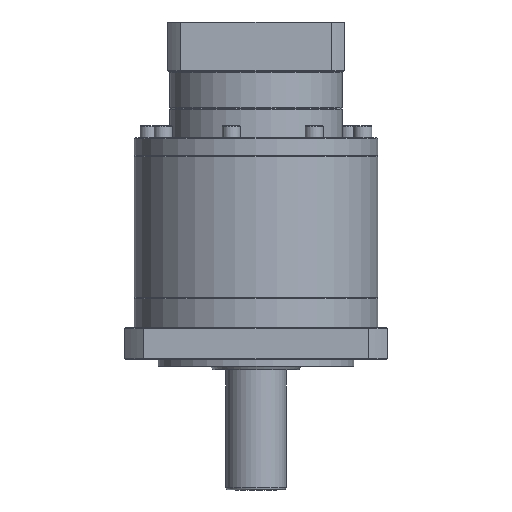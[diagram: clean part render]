
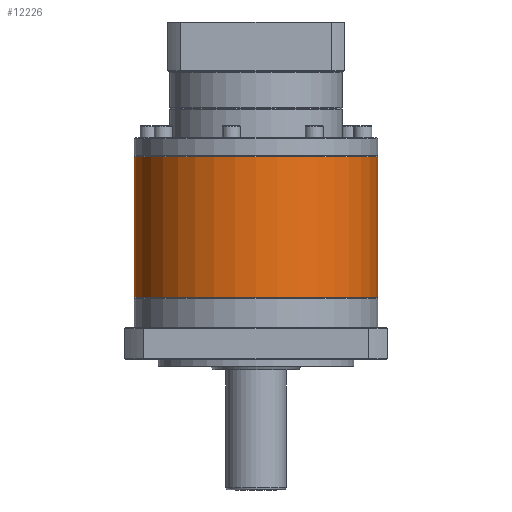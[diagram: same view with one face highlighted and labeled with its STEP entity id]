
A CAD part, front view. The second image highlights one B-rep face of the part: STEP entity #12226.
In plain terms, the highlighted cylindrical face has radius 81 mm (diameter 162 mm), a partial arc.
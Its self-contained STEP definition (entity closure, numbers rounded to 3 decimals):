
#12226 = ADVANCED_FACE ( 'NONE', ( #13058 ), #50453, .T. ) ;
#13058 = FACE_OUTER_BOUND ( 'NONE', #111437, .T. ) ;
#15167 = ORIENTED_EDGE ( 'NONE', *, *, #113125, .T. ) ;
#24335 = AXIS2_PLACEMENT_3D ( 'NONE', #120979, #55018, #55968 ) ;
#30949 = CARTESIAN_POINT ( 'NONE',  ( -94.418, -5.319, 210.6 ) ) ;
#31367 = CARTESIAN_POINT ( 'NONE',  ( -94.418, -5.319, 304.1 ) ) ;
#31558 = LINE ( 'NONE', #89498, #119276 ) ;
#40376 = DIRECTION ( 'NONE',  ( 0., 0., -1. ) ) ;
#46634 = DIRECTION ( 'NONE',  ( 0., 0., -1. ) ) ;
#48487 = VECTOR ( 'NONE', #55048, 1000. ) ;
#49874 = VERTEX_POINT ( 'NONE', #31367 ) ;
#50453 = CYLINDRICAL_SURFACE ( 'NONE', #127888, 81. ) ;
#55018 = DIRECTION ( 'NONE',  ( 0., 0., -1. ) ) ;
#55048 = DIRECTION ( 'NONE',  ( 0., 0., -1. ) ) ;
#55968 = DIRECTION ( 'NONE',  ( -1., 0., 0. ) ) ;
#81190 = LINE ( 'NONE', #120545, #48487 ) ;
#88553 = CIRCLE ( 'NONE', #127211, 81. ) ;
#89498 = CARTESIAN_POINT ( 'NONE',  ( -94.418, -5.319, 304.6 ) ) ;
#98925 = CIRCLE ( 'NONE', #24335, 81. ) ;
#101474 = VERTEX_POINT ( 'NONE', #121606 ) ;
#102059 = EDGE_CURVE ( 'NONE', #101474, #108604, #81190, .T. ) ;
#104430 = CARTESIAN_POINT ( 'NONE',  ( -13.418, -5.319, 210.6 ) ) ;
#106132 = CARTESIAN_POINT ( 'NONE',  ( -13.418, -5.319, 304.6 ) ) ;
#108604 = VERTEX_POINT ( 'NONE', #116766 ) ;
#111437 = EDGE_LOOP ( 'NONE', ( #114523, #126538, #15167, #123116 ) ) ;
#112592 = EDGE_CURVE ( 'NONE', #101474, #49874, #98925, .T. ) ;
#113125 = EDGE_CURVE ( 'NONE', #49874, #115948, #31558, .T. ) ;
#114523 = ORIENTED_EDGE ( 'NONE', *, *, #102059, .F. ) ;
#114998 = DIRECTION ( 'NONE',  ( -1., 0., 0. ) ) ;
#115948 = VERTEX_POINT ( 'NONE', #30949 ) ;
#116766 = CARTESIAN_POINT ( 'NONE',  ( 67.582, -5.319, 210.6 ) ) ;
#117253 = EDGE_CURVE ( 'NONE', #115948, #108604, #88553, .T. ) ;
#119276 = VECTOR ( 'NONE', #46634, 1000. ) ;
#120545 = CARTESIAN_POINT ( 'NONE',  ( 67.582, -5.319, 304.6 ) ) ;
#120979 = CARTESIAN_POINT ( 'NONE',  ( -13.418, -5.319, 304.1 ) ) ;
#121606 = CARTESIAN_POINT ( 'NONE',  ( 67.582, -5.319, 304.1 ) ) ;
#123116 = ORIENTED_EDGE ( 'NONE', *, *, #117253, .T. ) ;
#126538 = ORIENTED_EDGE ( 'NONE', *, *, #112592, .T. ) ;
#126592 = DIRECTION ( 'NONE',  ( 0., 0., 1. ) ) ;
#127211 = AXIS2_PLACEMENT_3D ( 'NONE', #104430, #126592, #114998 ) ;
#127888 = AXIS2_PLACEMENT_3D ( 'NONE', #106132, #40376, #128283 ) ;
#128283 = DIRECTION ( 'NONE',  ( -1., 0., 0. ) ) ;
